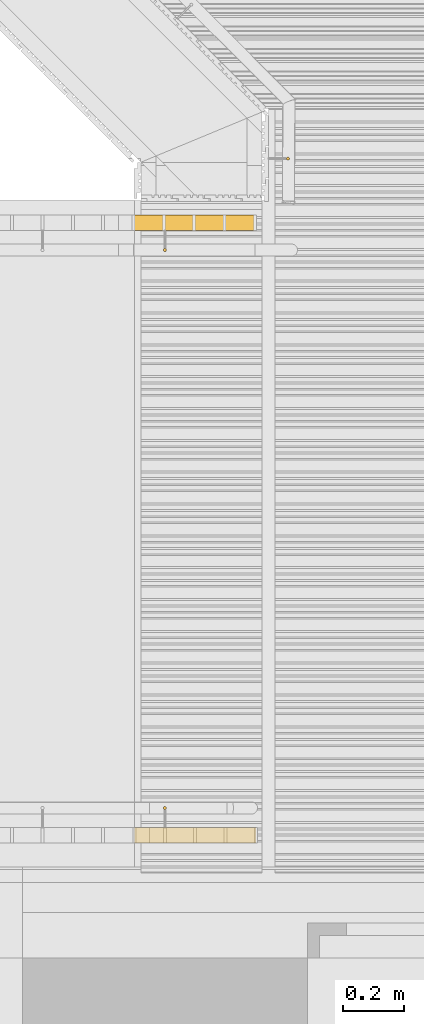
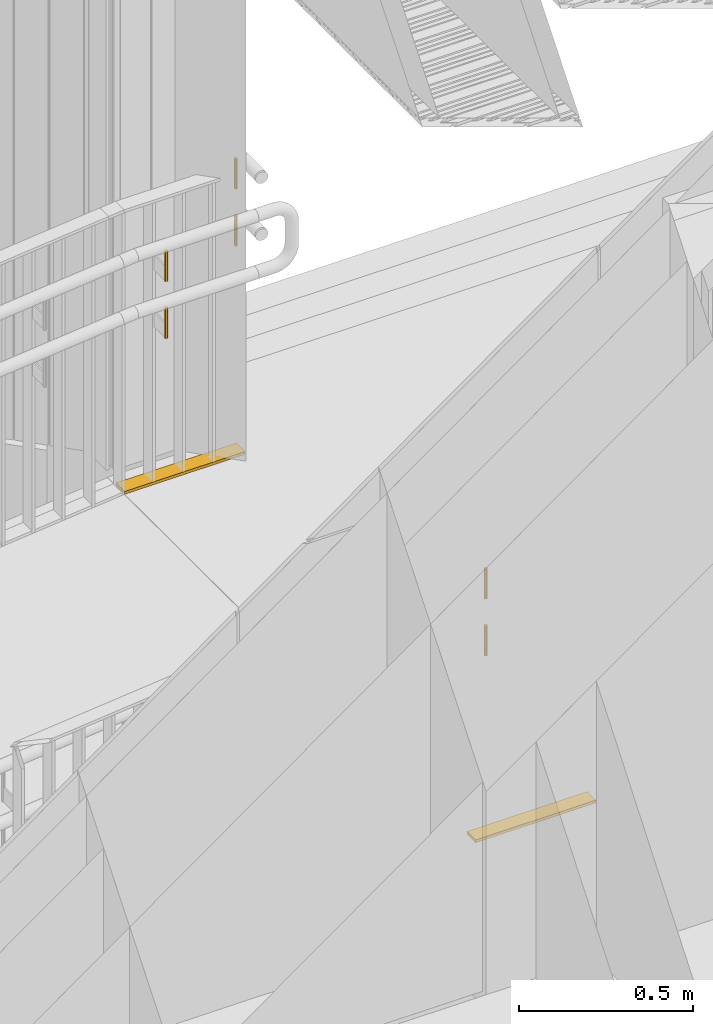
# One storey, part 161 of 418: 8 railings.
"""IFC2X3 building model written with IfcOpenShell, lengths in millimetres."""

from ifc_helpers import new_model, entity, si_unit, converted_unit, derived_unit, money_unit, direction, frame, origin_with_axes, origin_2d_with_axis, place, context, subcontext, project, spatial, polyline, circle, outline, extrude, material, type_object, element, save


model = new_model("IFC2X3")

# Units and contexts
model_context = context("Model", 3, precision=0.01, world=origin_with_axes(), true_north=direction((0.0, 1.0)))
body_context = subcontext(model_context, "Body", "Model", "MODEL_VIEW")
ifc_project = project(units=[si_unit("LENGTHUNIT", "METRE", prefix="MILLI"), si_unit("AREAUNIT", "SQUARE_METRE"), si_unit("VOLUMEUNIT", "CUBIC_METRE"), converted_unit("PLANEANGLEUNIT", "DEGREE", entity("IfcPlaneAngleMeasure", 0.0174532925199), si_unit("PLANEANGLEUNIT", "RADIAN"), dimensions=[0, 0, 0, 0, 0, 0, 0]), si_unit("SOLIDANGLEUNIT", "STERADIAN"), money_unit("EUR"), converted_unit("TIMEUNIT", "Year", entity("IfcTimeMeasure", 31556926.0), si_unit("TIMEUNIT", "SECOND"), dimensions=[0, 0, 1, 0, 0, 0, 0]), si_unit("MASSUNIT", "GRAM", prefix="KILO"), si_unit("THERMODYNAMICTEMPERATUREUNIT", "DEGREE_CELSIUS"), si_unit("LUMINOUSINTENSITYUNIT", "LUMEN"), si_unit("ENERGYUNIT", "JOULE", prefix="MEGA"), derived_unit("THERMALCONDUCTANCEUNIT", [(si_unit("POWERUNIT", "WATT"), 1), (si_unit("LENGTHUNIT", "METRE"), -1), (si_unit("THERMODYNAMICTEMPERATUREUNIT", "KELVIN"), -1)]), derived_unit("SPECIFICHEATCAPACITYUNIT", [(si_unit("ENERGYUNIT", "JOULE"), 1), (si_unit("MASSUNIT", "GRAM", prefix="KILO"), -1), (si_unit("THERMODYNAMICTEMPERATUREUNIT", "KELVIN"), -1)]), derived_unit("MASSDENSITYUNIT", [(si_unit("MASSUNIT", "GRAM", prefix="KILO"), 1), (si_unit("VOLUMEUNIT", "CUBIC_METRE"), -1)])], contexts=[model_context])

# Site, building, storey
site_placement = place(None, origin_with_axes())
site = spatial("IfcSite", under=ifc_project, at=site_placement, Name="Paldiski mnt 245/1, Tallinn, Harjumaa", CompositionType="COMPLEX")
building_placement = place(site_placement, origin_with_axes())
building = spatial("IfcBuilding", under=site, at=building_placement, Name="RKAS Hoone üldnimetus (kasutust iseloomustav) -> IFC Project Manager -> SOLIBRI", CompositionType="ELEMENT")
storey_placement = place(building_placement, origin_with_axes())
storey = spatial("IfcBuildingStorey", under=building, at=storey_placement, Name="Esimene korrus", CompositionType="ELEMENT", Elevation=0.0)

# Railings
ifc_material_1 = material(Name="ET-07_Teras - Roostevaba")
railing_type_1 = type_object("IfcRailingType", Name="ET-07_Teras - Roostevaba D10", PredefinedType="NOTDEFINED")
for number, where, z_axis, x_axis in (
    (1, (-52913.5785888, 38726.3006116, 534.0), (0.0, 0.0, 1.0), (1.0, 2.53862191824e-08, 0.0)),
    (2, (-52913.5785888, 38726.3006116, 734.421899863), (0.0, 0.0, 1.0), (1.0, 2.53862191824e-08, 0.0)),
    (3, (-53319.7695353, 36584.8286725, 734.713015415), (0.0, 0.0, 1.0), (0.0, 1.0, 0.0)),
    (4, (-53319.7693367, 36584.8286725, 534.712965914), (0.0, 0.0, 1.0), (0.0, 1.0, 0.0)),
):
    element("IfcRailing", number, at=place(storey_placement, frame(where, z_axis=z_axis, x_axis=x_axis)), inside=storey, type_object=railing_type_1, material=ifc_material_1, Name="Trepiire", PredefinedType="NOTDEFINED", context=body_context, shape_type="SweptSolid", body=[
        extrude(circle(Radius=5.0, at=origin_2d_with_axis()), origin_with_axes(), (0.0, 0.0, 1.0), 106.0),
    ])
for number, where, z_axis, x_axis in (
    (5, (-53319.7695353, 38424.7311931, 734.713015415), (0.0, 0.0, 1.0), (0.0, 1.0, 0.0)),
    (6, (-53319.7693367, 38424.7311931, 534.712965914), (0.0, 0.0, 1.0), (0.0, 1.0, 0.0)),
):
    element("IfcRailing", number, at=place(storey_placement, frame(where, z_axis=z_axis, x_axis=x_axis)), inside=storey, type_object=railing_type_1, material=ifc_material_1, Name="Trepiire", PredefinedType="NOTDEFINED", context=body_context, shape_type="SweptSolid", body=[
        extrude(circle(Radius=5.0, at=origin_2d_with_axis()), frame((0.0, 0.0, 0.0), z_axis=(0.0, 0.0, -1.0), x_axis=(-1.0, 0.0, 0.0)), (0.0, 0.0, -1.0), 106.0),
    ])
ifc_material_2 = material(Name="ET-05_Teras")
railing_type_2 = type_object("IfcRailingType", Name="ET-05_Teras 10", PredefinedType="NOTDEFINED")
for number, where, z_axis, x_axis in (
    (7, (-53419.7693112, 36469.8286725, -20.0), (0.0, 0.0, 1.0), (0.0, 1.0, 0.0)),
    (8, (-53419.7693112, 38489.7311919, -20.0), (0.0, 0.0, 1.0), (0.0, 1.0, 0.0)),
):
    element("IfcRailing", number, at=place(storey_placement, frame(where, z_axis=z_axis, x_axis=x_axis)), inside=storey, type_object=railing_type_2, material=ifc_material_2, Name="Trepipiire", PredefinedType="NOTDEFINED", context=body_context, shape_type="SweptSolid", body=[
        extrude(outline(polyline([(50.0, -400.461985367), (50.0, 0.0), (0.0, 0.0), (0.0, -400.461985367), (50.0, -400.461985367)])), origin_with_axes(), (0.0, 0.0, 1.0), 9.96194698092),
    ])

save(model, "model.ifc")
